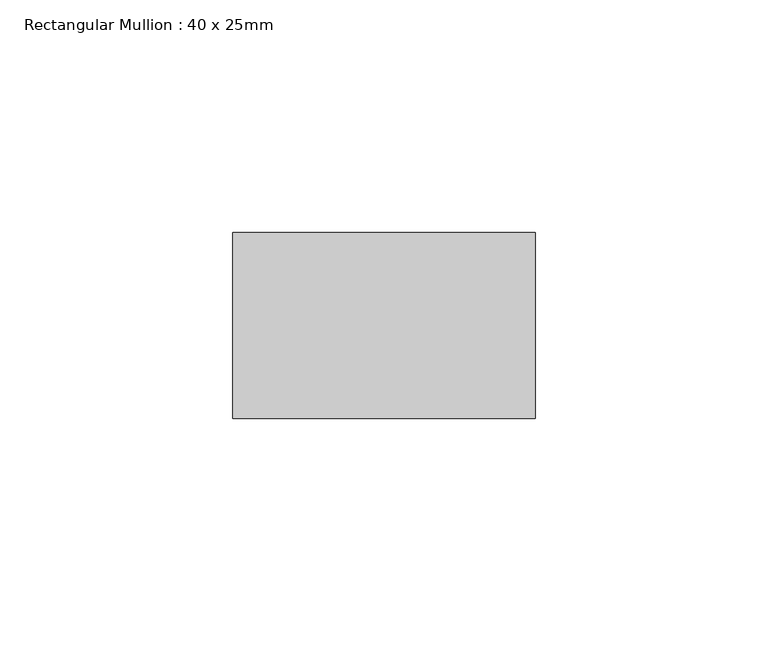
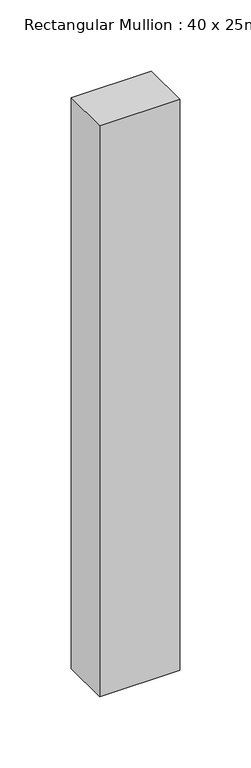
"""IFC4 building model written with IfcOpenShell, lengths in millimetres: member geometry, Rectangular Mullion : 40 x 25mm."""

import ifcopenshell
import ifcopenshell.guid

model = None  # the IFC model being written
_history = None  # IfcOwnerHistory: only IFC2X3 demands one
_inside = {}  # id of a spatial element -> (the spatial element, [elements in it])
_under = {}  # id of a project, library or spatial element -> (it, [spatial elements below it])
_declared = {}  # id of a project -> (the project, [libraries it declares])
_typed = {}  # id of a type object -> (the type object, [elements of that type])
_made_of = {}  # id of a material, layer set ... -> (it, [elements and type objects made of it])


def new_model(schema):
    """Start an empty IFC model of exactly this schema.

    Asked for "IFC4X3", IfcOpenShell would pick the latest addendum, in which some entities
    have other attributes; the version numbers below select the first issue.
    IFC2X3 requires an IfcOwnerHistory on every rooted entity: one is made here for all.
    """
    global model, _history
    if schema == "IFC4X3":
        model = ifcopenshell.file(schema_version=(4, 3, 0, 0))
    else:
        model = ifcopenshell.file(schema=schema)
    _inside.clear()
    _under.clear()
    _declared.clear()
    _typed.clear()
    _made_of.clear()
    _history = None
    if model.schema == "IFC2X3":
        org = make("IfcOrganization", Name="unknown")
        user = make(
            "IfcPersonAndOrganization",
            ThePerson=make("IfcPerson", FamilyName="unknown"),
            TheOrganization=org,
        )
        app = make(
            "IfcApplication",
            ApplicationDeveloper=org,
            Version="unknown",
            ApplicationFullName="unknown",
            ApplicationIdentifier="unknown",
        )
        _history = make(
            "IfcOwnerHistory",
            OwningUser=user,
            OwningApplication=app,
            ChangeAction="ADDED",
            CreationDate=0,
        )
    return model


def make(cls, **values):
    """One entity of the class cls with the attributes given. An attribute that is None is left unset."""
    return model.create_entity(
        cls, **{name: value for name, value in values.items() if value is not None}
    )


def rooted(cls, **values):
    """An entity with a GlobalId (a new one), such as an element, a storey or a relation."""
    return make(cls, GlobalId=ifcopenshell.guid.new(), OwnerHistory=_history, **values)


def si_unit(unit_type, name, prefix=None):
    """IfcSIUnit, for example si_unit("LENGTHUNIT", "METRE", prefix="MILLI")."""
    return make("IfcSIUnit", UnitType=unit_type, Prefix=prefix, Name=name)


def assignment(units):
    """IfcUnitAssignment: the units of a project."""
    return None if units is None else make("IfcUnitAssignment", Units=units)


def point(xyz):
    """IfcCartesianPoint."""
    return None if xyz is None else make("IfcCartesianPoint", Coordinates=xyz)


def direction(xyz):
    """IfcDirection."""
    return None if xyz is None else make("IfcDirection", DirectionRatios=xyz)


def frame(location, z_axis=None, x_axis=None):
    """IfcAxis2Placement3D, a coordinate frame: its origin and axes. An axis left out is left unset."""
    return make(
        "IfcAxis2Placement3D",
        Location=point(location),
        Axis=direction(z_axis),
        RefDirection=direction(x_axis),
    )


def origin():
    """The frame at (0, 0, 0) with its axes left unset."""
    return frame((0.0, 0.0, 0.0))


def place(relative_to, where):
    """IfcLocalPlacement: puts the frame where relative to a parent placement (None: the world)."""
    return make(
        "IfcLocalPlacement", PlacementRelTo=relative_to, RelativePlacement=where
    )


def context(
    kind, dimensions, precision=None, world=None, true_north=None, identifier=None
):
    """IfcGeometricRepresentationContext, for example the 3D "Model" context."""
    return make(
        "IfcGeometricRepresentationContext",
        ContextIdentifier=identifier,
        ContextType=kind,
        CoordinateSpaceDimension=dimensions,
        Precision=precision,
        WorldCoordinateSystem=world,
        TrueNorth=true_north,
    )


def project(units=None, contexts=None):
    """IfcProject with its units and contexts."""
    return rooted(
        "IfcProject",
        Name="project",
        RepresentationContexts=contexts,
        UnitsInContext=assignment(units),
    )


def spatial(cls, under=None, at=None, **own):
    """A site, building, storey or space (cls), placed at a placement, below another one or the project."""
    s = rooted(cls, ObjectPlacement=at, **own)
    if under is not None:
        _under.setdefault(under.id(), (under, []))[1].append(s)
    return s


def polyline(points):
    """IfcPolyline through the points."""
    return make("IfcPolyline", Points=[point(p) for p in points])


def outline(outer, holes=None, kind="AREA"):
    """IfcArbitraryClosedProfileDef: a profile drawn as a closed curve; with holes, ...WithVoids."""
    if holes is None:
        return make("IfcArbitraryClosedProfileDef", ProfileType=kind, OuterCurve=outer)
    return make(
        "IfcArbitraryProfileDefWithVoids",
        ProfileType=kind,
        OuterCurve=outer,
        InnerCurves=holes,
    )


def extrude(swept, where, along, depth):
    """IfcExtrudedAreaSolid: the profile swept, set in the frame where, extruded along a direction by depth."""
    return make(
        "IfcExtrudedAreaSolid",
        SweptArea=swept,
        Position=where,
        ExtrudedDirection=direction(along),
        Depth=depth,
    )


def shape(context_of_items, identifier, shape_type, items):
    """IfcShapeRepresentation: the items that make up one representation, for example the "Body"."""
    return make(
        "IfcShapeRepresentation",
        ContextOfItems=context_of_items,
        RepresentationIdentifier=identifier,
        RepresentationType=shape_type,
        Items=items,
    )


def source(mapping_origin, context_of_items, identifier, shape_type, items):
    """IfcRepresentationMap: a shape defined once, which mapped items show again and again."""
    return make(
        "IfcRepresentationMap",
        MappingOrigin=mapping_origin,
        MappedRepresentation=shape(context_of_items, identifier, shape_type, items),
    )


def transform(
    local_origin,
    x_axis=None,
    y_axis=None,
    z_axis=None,
    scale=None,
    scale2=None,
    scale3=None,
    uniform=True,
):
    """IfcCartesianTransformationOperator3D, or its non-uniform kind. x_axis, y_axis, z_axis: its Axis1, 2, 3."""
    if uniform:
        return make(
            "IfcCartesianTransformationOperator3D",
            Axis1=direction(x_axis),
            Axis2=direction(y_axis),
            LocalOrigin=point(local_origin),
            Scale=scale,
            Axis3=direction(z_axis),
        )
    return make(
        "IfcCartesianTransformationOperator3DnonUniform",
        Axis1=direction(x_axis),
        Axis2=direction(y_axis),
        LocalOrigin=point(local_origin),
        Scale=scale,
        Axis3=direction(z_axis),
        Scale2=scale2,
        Scale3=scale3,
    )


def mapped(mapping_source, mapping_target):
    """IfcMappedItem: shows the shape of a source again, moved by a transform."""
    return make(
        "IfcMappedItem", MappingSource=mapping_source, MappingTarget=mapping_target
    )


def made_of(thing, what):
    """Note that an element or type object is made of a material, layer set ...; save() writes the relation."""
    if what is not None:
        _made_of.setdefault(what.id(), (what, []))[1].append(thing)
    return thing


def element(
    cls,
    number,
    at=None,
    inside=None,
    cuts=None,
    type_object=None,
    material=None,
    context=None,
    identifier="Body",
    shape_type=None,
    held_by="IfcProductDefinitionShape",
    body=None,
    shapes=None,
    **own,
):
    """One element of the class cls, such as IfcWall. Its Tag is "e" and its number.

    at: its placement. inside: the storey or other place that contains it. cuts: it is an
    opening in that element (IfcRelVoidsElement). A single representation is given by context,
    identifier, shape_type and body (its items); several are given by shapes. held_by: the class
    of the entity that holds the representations. save() writes the other relations.
    """
    e = rooted(cls, Tag="e%d" % number, ObjectPlacement=at, **own)
    if body is not None:
        shapes = [shape(context, identifier, shape_type, body)]
    if shapes is not None:
        e.Representation = make(held_by, Representations=shapes)
    if inside is not None:
        _inside.setdefault(inside.id(), (inside, []))[1].append(e)
    if cuts is not None:
        rooted(
            "IfcRelVoidsElement", RelatingBuildingElement=cuts, RelatedOpeningElement=e
        )
    if type_object is not None:
        _typed.setdefault(type_object.id(), (type_object, []))[1].append(e)
    return made_of(e, material)


def aggregate(whole, parts):
    """IfcRelAggregates: a whole, such as a stair, and the parts it consists of."""
    return rooted("IfcRelAggregates", RelatingObject=whole, RelatedObjects=parts)


def save(model, path):
    """Write the relations noted so far, then the file.

    IfcRelAggregates (storeys below a building ...), IfcRelContainedInSpatialStructure (elements
    in a storey), IfcRelDefinesByType, IfcRelAssociatesMaterial and IfcRelDeclares: one each for
    every whole, place, type object, material and project.
    """
    for whole, parts in _under.values():
        aggregate(whole, parts)
    for where, things in _inside.values():
        rooted(
            "IfcRelContainedInSpatialStructure",
            RelatedElements=things,
            RelatingStructure=where,
        )
    for kind, things in _typed.values():
        rooted("IfcRelDefinesByType", RelatedObjects=things, RelatingType=kind)
    for what, things in _made_of.values():
        rooted("IfcRelAssociatesMaterial", RelatedObjects=things, RelatingMaterial=what)
    for by, libraries in _declared.values():
        rooted("IfcRelDeclares", RelatingContext=by, RelatedDefinitions=libraries)
    model.write(path)


def rectangular_mullion_40_x_25mm_c9513194(model_context):
    return source(origin(), model_context, "Body", "SweptSolid", [
        extrude(outline(polyline([(0.0, -20.0), (0.0, -60.0), (-65.0, -60.0), (-65.0, -20.0), (0.0, -20.0)])), frame((0.0, 0.0, -490.0), z_axis=(0.0, 0.0, 1.0), x_axis=(1.0, 0.0, 0.0)), (0.0, 0.0, 1.0), 490.0),
    ])


if __name__ == "__main__":
    model = new_model("IFC4")
    model_context = context("Model", 3, world=origin())
    ifc_project = project(units=[si_unit("LENGTHUNIT", "METRE", prefix="MILLI")], contexts=[model_context])
    site = spatial("IfcSite", under=ifc_project)
    building = spatial("IfcBuilding", under=site)
    placement = place(None, origin())
    rectangular_mullion_40_x_25mm_shape = rectangular_mullion_40_x_25mm_c9513194(model_context)
    element("IfcMember", 1, ObjectType="Rectangular Mullion : 40 x 25mm", at=placement, inside=building, context=model_context, shape_type="MappedRepresentation", body=[
        mapped(rectangular_mullion_40_x_25mm_shape, transform((0.0, 0.0, 0.0), x_axis=(1.0, 0.0, 0.0), y_axis=(0.0, 1.0, 0.0), z_axis=(0.0, 0.0, 1.0))),
    ])
    save(model, "model.ifc")
